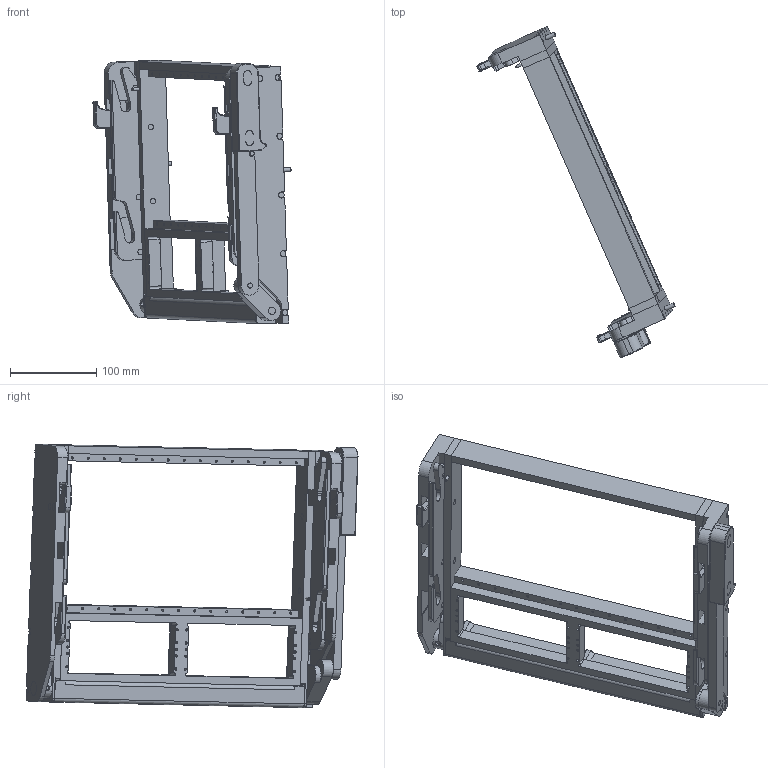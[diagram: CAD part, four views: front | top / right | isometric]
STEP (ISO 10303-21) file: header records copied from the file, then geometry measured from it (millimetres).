
FILE_DESCRIPTION((''),'2;1');
FILE_NAME('C:\old_Drawings\shrinkwrapped website .stp files\561610-STP.stp','2011-08-12T10:34:04',('GaryRobinson'),(''),'Autodesk Inventor 2011','Autodesk Inventor 2011','');
FILE_SCHEMA(('AUTOMOTIVE_DESIGN { 1 0 10303 214 1 1 1 1 }'));
Length unit declared in the file: inch
Products named in the file (1): 561610-STP
Bounding box: 230.16 x 385.68 x 306.26 mm (x, y, z)
Surface area: 402840.9 mm2 (no closed solid volume)
Topology: 0 solids, 61 shells, 437 faces, 1540 edges, 1107 vertices
Faces by surface type: plane 237, cylinder 183, cone 14, torus 3
Full cylindrical faces by diameter (mm): 2.54 x47, 2.642 x6, 3.175 x2, 3.251 x1, 4.496 x1, 4.826 x3, 5.105 x2, 5.953 x1, 6.325 x2, 6.35 x5, 6.401 x4, 6.858 x11, 8.731 x1, 15.875 x1, 16.002 x1, 16.51 x1, 22.352 x1
Entity records: 17042 total; most frequent: CARTESIAN_POINT 3226, DIRECTION 2805, ORIENTED_EDGE 2262, EDGE_CURVE 1411, VERTEX_POINT 1072, AXIS2_PLACEMENT_3D 973, VECTOR 859, LINE 859
